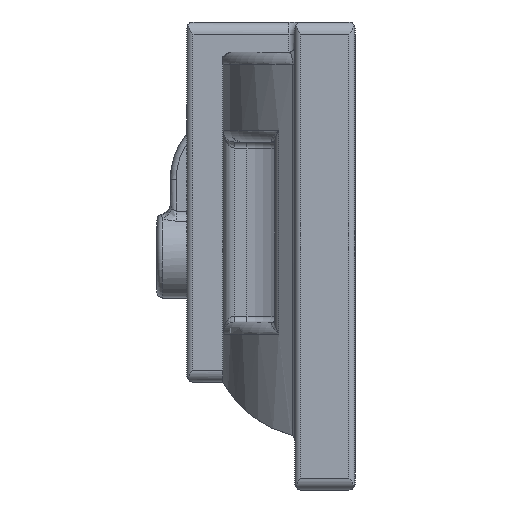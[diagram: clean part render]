
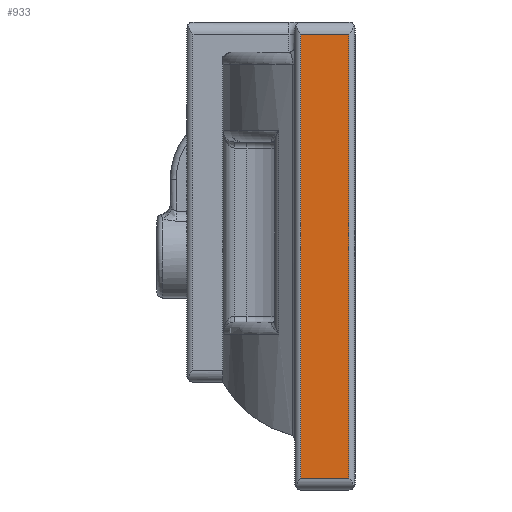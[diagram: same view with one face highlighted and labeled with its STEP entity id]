
A CAD part, left-side view. The second image highlights one B-rep face of the part: STEP entity #933.
In plain terms, the highlighted planar face has unit normal (-1, 0, 0).
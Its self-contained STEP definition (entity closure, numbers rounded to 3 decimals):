
#933 = ADVANCED_FACE( '', ( #1933 ), #1934, .T. );
#1933 = FACE_OUTER_BOUND( '', #11266, .T. );
#1934 = PLANE( '', #11267 );
#11266 = EDGE_LOOP( '', ( #14643, #14644, #14645, #14646 ) );
#11267 = AXIS2_PLACEMENT_3D( '', #14647, #14648, #14649 );
#14643 = ORIENTED_EDGE( '', *, *, #16170, .T. );
#14644 = ORIENTED_EDGE( '', *, *, #16196, .T. );
#14645 = ORIENTED_EDGE( '', *, *, #15388, .T. );
#14646 = ORIENTED_EDGE( '', *, *, #15810, .T. );
#14647 = CARTESIAN_POINT( '', ( -350., 50., 195. ) );
#14648 = DIRECTION( '', ( -1., 0., 0. ) );
#14649 = DIRECTION( '', ( 0., 0., 1. ) );
#15388 = EDGE_CURVE( '', #16744, #16745, #16746, .F. );
#15810 = EDGE_CURVE( '', #16745, #17380, #17383, .F. );
#16170 = EDGE_CURVE( '', #17380, #17815, #17817, .T. );
#16196 = EDGE_CURVE( '', #17815, #16744, #17843, .T. );
#16744 = VERTEX_POINT( '', #19636 );
#16745 = VERTEX_POINT( '', #19637 );
#16746 = LINE( '', #19638, #19639 );
#17380 = VERTEX_POINT( '', #22357 );
#17383 = LINE( '', #22375, #22376 );
#17815 = VERTEX_POINT( '', #24322 );
#17817 = LINE( '', #24339, #24340 );
#17843 = LINE( '', #24412, #24413 );
#19636 = CARTESIAN_POINT( '', ( -350., 5., -185. ) );
#19637 = CARTESIAN_POINT( '', ( -350., 5., 185. ) );
#19638 = CARTESIAN_POINT( '', ( -350., 5., 195. ) );
#19639 = VECTOR( '', #24921, 1000. );
#22357 = CARTESIAN_POINT( '', ( -350., 45., 185. ) );
#22375 = CARTESIAN_POINT( '', ( -350., 50., 185. ) );
#22376 = VECTOR( '', #25480, 1000. );
#24322 = CARTESIAN_POINT( '', ( -350., 45., -185. ) );
#24339 = CARTESIAN_POINT( '', ( -350., 45., -195. ) );
#24340 = VECTOR( '', #25838, 1000. );
#24412 = CARTESIAN_POINT( '', ( -350., 50., -185. ) );
#24413 = VECTOR( '', #25857, 1000. );
#24921 = DIRECTION( '', ( 0., 0., -1. ) );
#25480 = DIRECTION( '', ( 0., -1., 0. ) );
#25838 = DIRECTION( '', ( 0., 0., -1. ) );
#25857 = DIRECTION( '', ( 0., -1., 0. ) );
